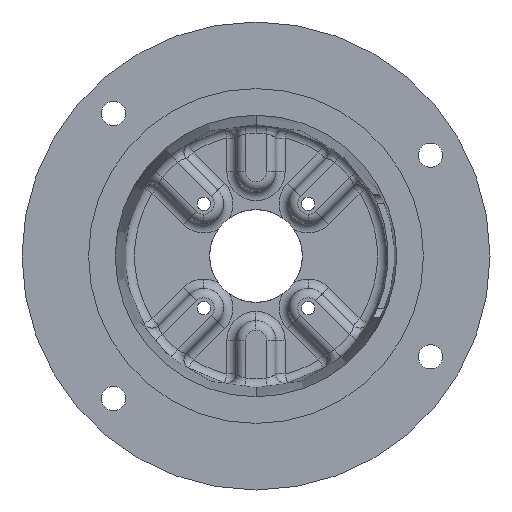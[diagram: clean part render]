
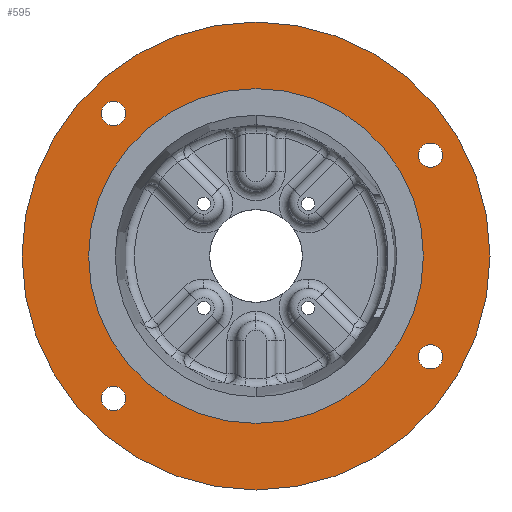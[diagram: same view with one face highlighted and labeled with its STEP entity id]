
A CAD part, front view. The second image highlights one B-rep face of the part: STEP entity #595.
In plain terms, the highlighted planar face has unit normal (0, -1, 0).
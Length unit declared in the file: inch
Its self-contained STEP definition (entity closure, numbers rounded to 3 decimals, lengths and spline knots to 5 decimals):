
#49 = DIRECTION ( 'NONE',  ( 0., -1., 0. ) ) ;
#114 = VERTEX_POINT ( 'NONE', #219 ) ;
#125 = CIRCLE ( 'NONE', #4320, 0.23438 ) ;
#169 = CIRCLE ( 'NONE', #2305, 0.23437 ) ;
#219 = CARTESIAN_POINT ( 'NONE',  ( 3.35585, 0., 2.17188 ) ) ;
#225 = VERTEX_POINT ( 'NONE', #4707 ) ;
#329 = AXIS2_PLACEMENT_3D ( 'NONE', #5297, #2374, #5807 ) ;
#361 = FACE_BOUND ( 'NONE', #3257, .T. ) ;
#392 = EDGE_CURVE ( 'NONE', #3687, #225, #125, .T. ) ;
#433 = DIRECTION ( 'NONE',  ( 0., 0., 1. ) ) ;
#475 = CIRCLE ( 'NONE', #329, 0.23438 ) ;
#496 = DIRECTION ( 'NONE',  ( 0., -1., 0. ) ) ;
#585 = EDGE_CURVE ( 'NONE', #4509, #783, #3116, .T. ) ;
#595 = ADVANCED_FACE ( 'NONE', ( #1659, #5567, #361, #5408, #1959, #4101 ), #4822, .F. ) ;
#696 = VERTEX_POINT ( 'NONE', #3617 ) ;
#783 = VERTEX_POINT ( 'NONE', #1344 ) ;
#961 = EDGE_CURVE ( 'NONE', #4666, #3214, #4175, .T. ) ;
#1046 = DIRECTION ( 'NONE',  ( 0., -1., 0. ) ) ;
#1059 = CARTESIAN_POINT ( 'NONE',  ( -2.74004, 0., 2.50566 ) ) ;
#1112 = CARTESIAN_POINT ( 'NONE',  ( -2.74004, 0., -2.74004 ) ) ;
#1206 = AXIS2_PLACEMENT_3D ( 'NONE', #2988, #49, #3476 ) ;
#1208 = EDGE_CURVE ( 'NONE', #5068, #5402, #1570, .T. ) ;
#1234 = DIRECTION ( 'NONE',  ( 0., -1., 0. ) ) ;
#1272 = CARTESIAN_POINT ( 'NONE',  ( 3.35585, 0., -1.9375 ) ) ;
#1344 = CARTESIAN_POINT ( 'NONE',  ( 0., 0., 3.2195 ) ) ;
#1420 = CARTESIAN_POINT ( 'NONE',  ( 0., 0., -4.5 ) ) ;
#1570 = CIRCLE ( 'NONE', #6034, 0.23437 ) ;
#1608 = DIRECTION ( 'NONE',  ( 0., 0., -1. ) ) ;
#1659 = FACE_BOUND ( 'NONE', #5419, .T. ) ;
#1681 = ORIENTED_EDGE ( 'NONE', *, *, #392, .F. ) ;
#1683 = CARTESIAN_POINT ( 'NONE',  ( 0., 0., 0. ) ) ;
#1725 = DIRECTION ( 'NONE',  ( 0., -1., 0. ) ) ;
#1754 = CIRCLE ( 'NONE', #3232, 4.5 ) ;
#1772 = DIRECTION ( 'NONE',  ( 0., 0., -1. ) ) ;
#1880 = AXIS2_PLACEMENT_3D ( 'NONE', #1683, #5100, #2175 ) ;
#1946 = EDGE_CURVE ( 'NONE', #4626, #5335, #2724, .T. ) ;
#1959 = FACE_BOUND ( 'NONE', #5010, .T. ) ;
#1965 = DIRECTION ( 'NONE',  ( 0., -1., 0. ) ) ;
#1989 = ORIENTED_EDGE ( 'NONE', *, *, #5308, .F. ) ;
#2090 = ORIENTED_EDGE ( 'NONE', *, *, #585, .F. ) ;
#2100 = CARTESIAN_POINT ( 'NONE',  ( 3.35585, 0., -2.17187 ) ) ;
#2115 = DIRECTION ( 'NONE',  ( 0., -1., 0. ) ) ;
#2175 = DIRECTION ( 'NONE',  ( 0., 0., -1. ) ) ;
#2305 = AXIS2_PLACEMENT_3D ( 'NONE', #4902, #1965, #5397 ) ;
#2333 = AXIS2_PLACEMENT_3D ( 'NONE', #3442, #496, #3926 ) ;
#2367 = CIRCLE ( 'NONE', #2333, 0.23438 ) ;
#2374 = DIRECTION ( 'NONE',  ( 0., -1., 0. ) ) ;
#2388 = CARTESIAN_POINT ( 'NONE',  ( 0., 0., 0. ) ) ;
#2524 = ORIENTED_EDGE ( 'NONE', *, *, #6148, .F. ) ;
#2724 = CIRCLE ( 'NONE', #5423, 4.5 ) ;
#2844 = EDGE_LOOP ( 'NONE', ( #5675, #3244 ) ) ;
#2883 = DIRECTION ( 'NONE',  ( 0., 0., -1. ) ) ;
#2988 = CARTESIAN_POINT ( 'NONE',  ( 3.35585, 0., 1.9375 ) ) ;
#3116 = CIRCLE ( 'NONE', #3235, 3.2195 ) ;
#3144 = EDGE_CURVE ( 'NONE', #114, #696, #5856, .T. ) ;
#3214 = VERTEX_POINT ( 'NONE', #2100 ) ;
#3232 = AXIS2_PLACEMENT_3D ( 'NONE', #4157, #1234, #4658 ) ;
#3235 = AXIS2_PLACEMENT_3D ( 'NONE', #2388, #5823, #2883 ) ;
#3244 = ORIENTED_EDGE ( 'NONE', *, *, #961, .F. ) ;
#3245 = CIRCLE ( 'NONE', #4048, 0.23438 ) ;
#3257 = EDGE_LOOP ( 'NONE', ( #3644, #6044 ) ) ;
#3374 = DIRECTION ( 'NONE',  ( 0., 1., 0. ) ) ;
#3442 = CARTESIAN_POINT ( 'NONE',  ( -2.74004, 0., 2.74004 ) ) ;
#3476 = DIRECTION ( 'NONE',  ( 0., 0., -1. ) ) ;
#3617 = CARTESIAN_POINT ( 'NONE',  ( 3.35585, 0., 1.70313 ) ) ;
#3644 = ORIENTED_EDGE ( 'NONE', *, *, #6237, .F. ) ;
#3672 = CARTESIAN_POINT ( 'NONE',  ( -2.74004, 0., -2.97441 ) ) ;
#3687 = VERTEX_POINT ( 'NONE', #1059 ) ;
#3797 = EDGE_LOOP ( 'NONE', ( #5974, #4302 ) ) ;
#3926 = DIRECTION ( 'NONE',  ( 0., 0., -1. ) ) ;
#3979 = CARTESIAN_POINT ( 'NONE',  ( 3.35585, 0., -1.9375 ) ) ;
#4048 = AXIS2_PLACEMENT_3D ( 'NONE', #1272, #4698, #1772 ) ;
#4101 = FACE_OUTER_BOUND ( 'NONE', #3797, .T. ) ;
#4157 = CARTESIAN_POINT ( 'NONE',  ( 0., 0., 0. ) ) ;
#4175 = CIRCLE ( 'NONE', #4746, 0.23438 ) ;
#4302 = ORIENTED_EDGE ( 'NONE', *, *, #4515, .T. ) ;
#4320 = AXIS2_PLACEMENT_3D ( 'NONE', #4650, #1725, #5144 ) ;
#4399 = CARTESIAN_POINT ( 'NONE',  ( -2.74004, 0., -2.50566 ) ) ;
#4461 = DIRECTION ( 'NONE',  ( 0., 0., -1. ) ) ;
#4509 = VERTEX_POINT ( 'NONE', #6110 ) ;
#4515 = EDGE_CURVE ( 'NONE', #5335, #4626, #1754, .T. ) ;
#4535 = DIRECTION ( 'NONE',  ( 0., -1., 0. ) ) ;
#4626 = VERTEX_POINT ( 'NONE', #1420 ) ;
#4627 = CARTESIAN_POINT ( 'NONE',  ( 0., 0., 4.5 ) ) ;
#4650 = CARTESIAN_POINT ( 'NONE',  ( -2.74004, 0., 2.74004 ) ) ;
#4658 = DIRECTION ( 'NONE',  ( 0., 0., -1. ) ) ;
#4666 = VERTEX_POINT ( 'NONE', #4868 ) ;
#4698 = DIRECTION ( 'NONE',  ( 0., -1., 0. ) ) ;
#4707 = CARTESIAN_POINT ( 'NONE',  ( -2.74004, 0., 2.97441 ) ) ;
#4746 = AXIS2_PLACEMENT_3D ( 'NONE', #3979, #1046, #4461 ) ;
#4822 = PLANE ( 'NONE',  #4863 ) ;
#4863 = AXIS2_PLACEMENT_3D ( 'NONE', #5315, #3374, #433 ) ;
#4868 = CARTESIAN_POINT ( 'NONE',  ( 3.35585, 0., -1.70312 ) ) ;
#4902 = CARTESIAN_POINT ( 'NONE',  ( -2.74004, 0., -2.74004 ) ) ;
#5010 = EDGE_LOOP ( 'NONE', ( #2090, #1989 ) ) ;
#5048 = CARTESIAN_POINT ( 'NONE',  ( 0., 0., 0. ) ) ;
#5060 = EDGE_CURVE ( 'NONE', #225, #3687, #2367, .T. ) ;
#5068 = VERTEX_POINT ( 'NONE', #4399 ) ;
#5100 = DIRECTION ( 'NONE',  ( 0., -1., 0. ) ) ;
#5144 = DIRECTION ( 'NONE',  ( 0., 0., -1. ) ) ;
#5297 = CARTESIAN_POINT ( 'NONE',  ( 3.35585, 0., 1.9375 ) ) ;
#5308 = EDGE_CURVE ( 'NONE', #783, #4509, #5343, .T. ) ;
#5315 = CARTESIAN_POINT ( 'NONE',  ( -4.5, 0., 0. ) ) ;
#5335 = VERTEX_POINT ( 'NONE', #4627 ) ;
#5343 = CIRCLE ( 'NONE', #1880, 3.2195 ) ;
#5397 = DIRECTION ( 'NONE',  ( 0., 0., -1. ) ) ;
#5402 = VERTEX_POINT ( 'NONE', #3672 ) ;
#5408 = FACE_BOUND ( 'NONE', #5517, .T. ) ;
#5419 = EDGE_LOOP ( 'NONE', ( #2524, #6101 ) ) ;
#5423 = AXIS2_PLACEMENT_3D ( 'NONE', #5048, #2115, #5546 ) ;
#5517 = EDGE_LOOP ( 'NONE', ( #1681, #5965 ) ) ;
#5546 = DIRECTION ( 'NONE',  ( 0., 0., -1. ) ) ;
#5567 = FACE_BOUND ( 'NONE', #2844, .T. ) ;
#5675 = ORIENTED_EDGE ( 'NONE', *, *, #6017, .F. ) ;
#5807 = DIRECTION ( 'NONE',  ( 0., 0., -1. ) ) ;
#5823 = DIRECTION ( 'NONE',  ( 0., -1., 0. ) ) ;
#5856 = CIRCLE ( 'NONE', #1206, 0.23438 ) ;
#5965 = ORIENTED_EDGE ( 'NONE', *, *, #5060, .F. ) ;
#5974 = ORIENTED_EDGE ( 'NONE', *, *, #1946, .T. ) ;
#6017 = EDGE_CURVE ( 'NONE', #3214, #4666, #3245, .T. ) ;
#6034 = AXIS2_PLACEMENT_3D ( 'NONE', #1112, #4535, #1608 ) ;
#6044 = ORIENTED_EDGE ( 'NONE', *, *, #1208, .F. ) ;
#6101 = ORIENTED_EDGE ( 'NONE', *, *, #3144, .F. ) ;
#6110 = CARTESIAN_POINT ( 'NONE',  ( 0., 0., -3.2195 ) ) ;
#6148 = EDGE_CURVE ( 'NONE', #696, #114, #475, .T. ) ;
#6237 = EDGE_CURVE ( 'NONE', #5402, #5068, #169, .T. ) ;
